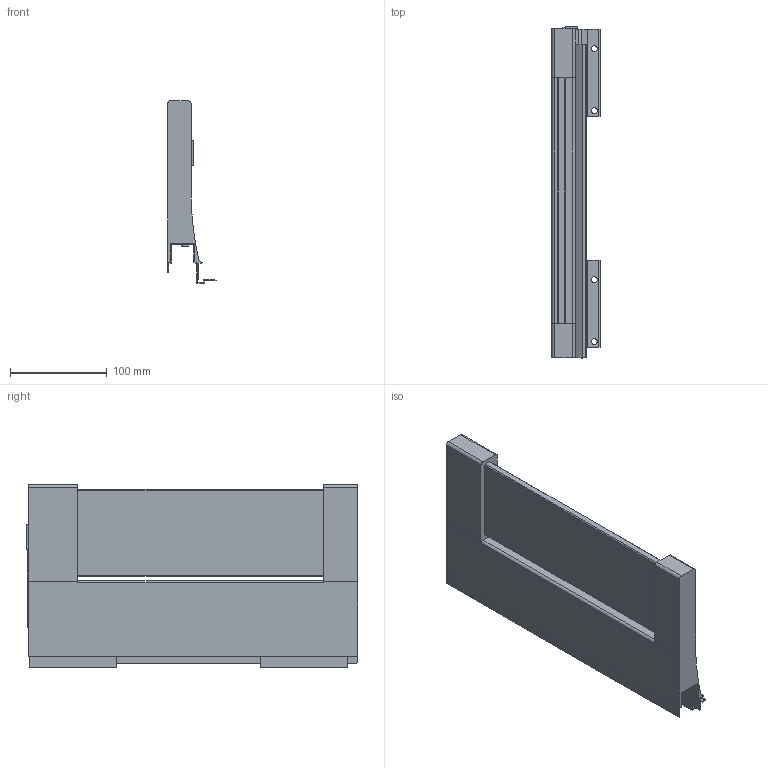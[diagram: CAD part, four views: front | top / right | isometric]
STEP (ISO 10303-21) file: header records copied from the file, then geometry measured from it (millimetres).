
FILE_DESCRIPTION (( 'STEP AP214' ), '1' );
FILE_NAME ('_XP Agantis Dekorseite H95 NL350 LI Top Glashalter.step', '2010-07-08T06:15:51', ( 'grass' ), ( '' ), 'SwSTEP 2.0', 'SolidWorks 2010', '' );
FILE_SCHEMA (( 'AUTOMOTIVE_DESIGN' ));
Length unit declared in the file: millimetre
Products named in the file (1): _XP Agantis Dekorseite H95 NL350 LI  Top Glashalter
Bounding box: 50.11 x 342.6 x 188.7 mm (x, y, z)
Volume: 860899.2 mm3; surface area: 189531.6 mm2
Topology: 1 solids, 1 shells, 134 faces, 392 edges, 257 vertices
Faces by surface type: plane 107, cylinder 27
Entity records: 4450 total; most frequent: ORIENTED_EDGE 784, CARTESIAN_POINT 784, DIRECTION 718, EDGE_CURVE 392, LINE 336, VECTOR 336, VERTEX_POINT 257, AXIS2_PLACEMENT_3D 191
